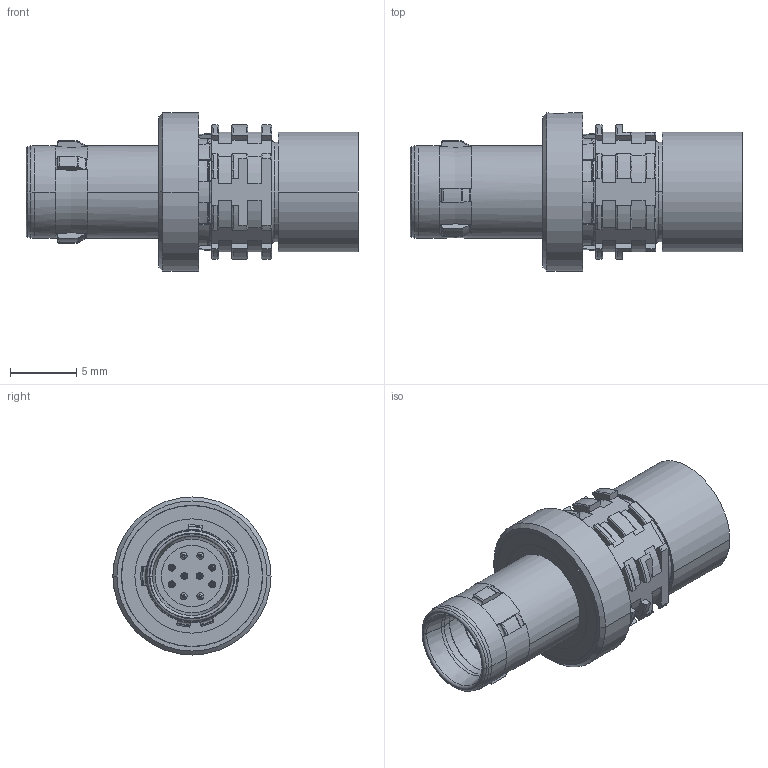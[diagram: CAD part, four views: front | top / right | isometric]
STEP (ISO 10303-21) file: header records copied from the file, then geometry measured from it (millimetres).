
FILE_DESCRIPTION((''),'2;1');
FILE_NAME('00149280--_ASM','2020-10-13T14:05:17',('EUnterhaslberger'),(''),'CREO PARAMETRIC BY PTC INC, 2018300','CREO PARAMETRIC BY PTC INC, 2018300','');
FILE_SCHEMA(('AP242_MANAGED_MODEL_BASED_3D_ENGINEERING_MIM_LF { 1 0 10303 442 1 1 4 }'));
Length unit declared in the file: millimetre
Products named in the file (4): TEMP_SW_STEP_MONOBLOCK_1_1; TEMP_SW_STEP_MONOBLOCK_1_2; TEMP_SW_STEP_MONOBLOCK_1_ASM; 00149280--_ASM
Assembly tree (3 placements, depth 3):
  00149280--_ASM
    TEMP_SW_STEP_MONOBLOCK_1_ASM
      TEMP_SW_STEP_MONOBLOCK_1_1
      TEMP_SW_STEP_MONOBLOCK_1_2
Bounding box: 25 x 11.9 x 11.9 mm (x, y, z)
Volume: 966.9 mm3; surface area: 2563.4 mm2
Topology: 2 solids, 2 shells, 949 faces, 2491 edges, 1591 vertices
Faces by surface type: cylinder 375, plane 274, torus 137, cone 123, bspline 20, sphere 20
Entity records: 38268 total; most frequent: CARTESIAN_POINT 7190, DIRECTION 5224, ORIENTED_EDGE 4902, EDGE_CURVE 2451, AXIS2_PLACEMENT_3D 2133, VERTEX_POINT 1591, CIRCLE 1195, EDGE_LOOP 1054
